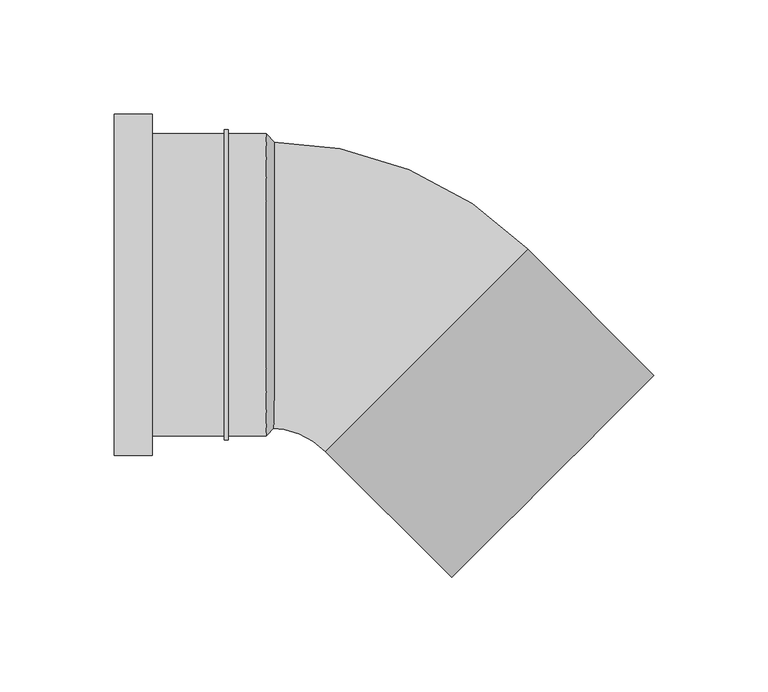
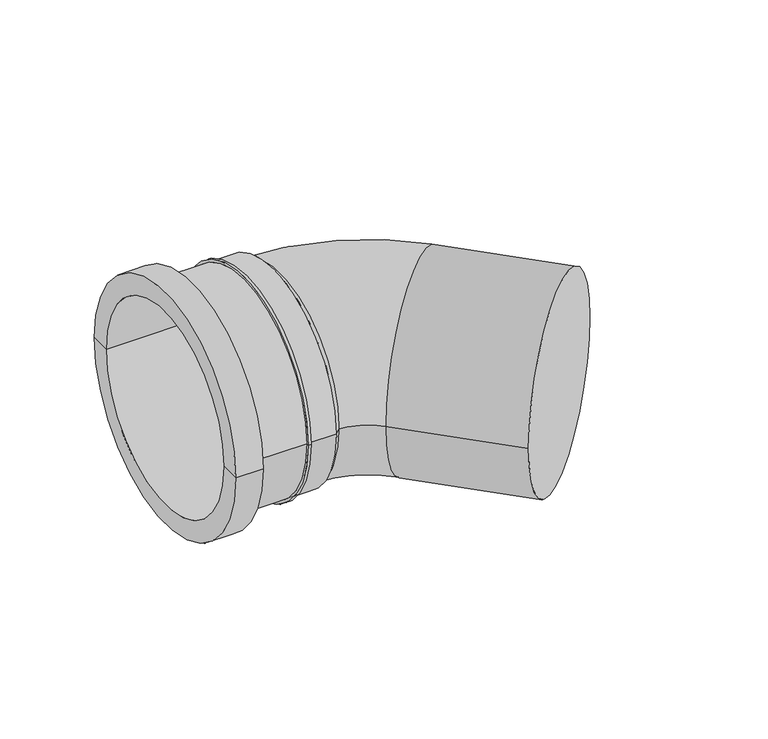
"""IFC4 building model written with IfcOpenShell, lengths in millimetres: pipe fitting geometry, UN_PIF_PP bend S-Sp_SH_PipeLife : Black, var. DN/OD (max. ø125, nested)."""

from ifc_helpers import new_model, si_unit, point, frame, origin, place, context, project, spatial, polyline, circle_curve, ellipse_curve, trimmed, source, transform, mapped, element, save
from ifc_brep_helpers import plane_surface, cylinder_surface, revolved_surface, advanced_brep


def pipe_fitting_6078bbb5(model_context):
    return source(origin(), model_context, "Body", "AdvancedBrep", [
        advanced_brep(
        [(-37.9, -62.5, 0.0), (-41.6, -66.2, 0.0), (-41.6, 66.2, 0.0), (-37.9, 62.5, 0.0), (-108.2, -74.9, 0.0), (-108.2, -62.5, 0.0), (-108.2, 62.5, 0.0), (-108.2, 74.9, 0.0), (-91.55, -74.9, 0.0), (-91.55, 74.9, 0.0), (-91.55, -66.2, 0.0), (-91.55, 66.2, 0.0), (-60.0, -66.2, 0.0), (-60.0, 66.2, 0.0), (-60.0, -67.95, 0.0), (-60.0, 67.95, 0.0), (-58.25, -67.95, 0.0), (-58.25, 67.95, 0.0), (-58.25, -66.2, 0.0), (-58.25, 66.2, 0.0)],
        [
            (0, 1),
            (1, 2, circle_curve(frame((-41.6, 0.0, 0.0), z_axis=(1.0, 0.0, 0.0), x_axis=(0.0, 1.0, 0.0)), 66.2)),
            (2, 3),
            (3, 0, circle_curve(frame((-37.9, 0.0, 0.0), z_axis=(-1.0, 0.0, 0.0), x_axis=(0.0, 1.0, 0.0)), 62.5)),
            (2, 1, circle_curve(frame((-41.6, 0.0, 0.0), z_axis=(1.0, 0.0, 0.0), x_axis=(0.0, 1.0, 0.0)), 66.2)),
            (0, 3, circle_curve(frame((-37.9, 0.0, 0.0), z_axis=(-1.0, 0.0, 0.0), x_axis=(0.0, 1.0, 0.0)), 62.5)),
            (4, 5),
            (5, 6, circle_curve(frame((-108.2, 0.0, 0.0), z_axis=(1.0, 0.0, 0.0), x_axis=(0.0, 1.0, 0.0)), 62.5)),
            (6, 7),
            (7, 4, circle_curve(frame((-108.2, 0.0, 0.0), z_axis=(-1.0, 0.0, 0.0), x_axis=(0.0, 1.0, 0.0)), 74.9)),
            (6, 5, circle_curve(frame((-108.2, 0.0, 0.0), z_axis=(1.0, 0.0, 0.0), x_axis=(0.0, 1.0, 0.0)), 62.5)),
            (4, 7, circle_curve(frame((-108.2, 0.0, 0.0), z_axis=(-1.0, 0.0, 0.0), x_axis=(0.0, 1.0, 0.0)), 74.9)),
            (8, 4),
            (7, 9),
            (9, 8, circle_curve(frame((-91.55, 0.0, 0.0), z_axis=(-1.0, 0.0, 0.0), x_axis=(0.0, 1.0, 0.0)), 74.9)),
            (8, 9, circle_curve(frame((-91.55, 0.0, 0.0), z_axis=(-1.0, 0.0, 0.0), x_axis=(0.0, 1.0, 0.0)), 74.9)),
            (10, 8),
            (9, 11),
            (11, 10, circle_curve(frame((-91.55, 0.0, 0.0), z_axis=(-1.0, 0.0, 0.0), x_axis=(0.0, 1.0, 0.0)), 66.2)),
            (10, 11, circle_curve(frame((-91.55, 0.0, 0.0), z_axis=(-1.0, 0.0, 0.0), x_axis=(0.0, 1.0, 0.0)), 66.2)),
            (12, 10),
            (11, 13),
            (13, 12, circle_curve(frame((-60.0, 0.0, 0.0), z_axis=(-1.0, 0.0, 0.0), x_axis=(0.0, 1.0, 0.0)), 66.2)),
            (12, 13, circle_curve(frame((-60.0, 0.0, 0.0), z_axis=(-1.0, 0.0, 0.0), x_axis=(0.0, 1.0, 0.0)), 66.2)),
            (14, 12),
            (13, 15),
            (15, 14, circle_curve(frame((-60.0, 0.0, 0.0), z_axis=(-1.0, 0.0, 0.0), x_axis=(0.0, 1.0, 0.0)), 67.95)),
            (14, 15, circle_curve(frame((-60.0, 0.0, 0.0), z_axis=(-1.0, 0.0, 0.0), x_axis=(0.0, 1.0, 0.0)), 67.95)),
            (16, 14),
            (15, 17),
            (17, 16, circle_curve(frame((-58.25, 0.0, 0.0), z_axis=(-1.0, 0.0, 0.0), x_axis=(0.0, 1.0, 0.0)), 67.95)),
            (16, 17, circle_curve(frame((-58.25, 0.0, 0.0), z_axis=(-1.0, 0.0, 0.0), x_axis=(0.0, 1.0, 0.0)), 67.95)),
            (18, 16),
            (17, 19),
            (19, 18, circle_curve(frame((-58.25, 0.0, 0.0), z_axis=(-1.0, 0.0, 0.0), x_axis=(0.0, 1.0, 0.0)), 66.2)),
            (18, 19, circle_curve(frame((-58.25, 0.0, 0.0), z_axis=(-1.0, 0.0, 0.0), x_axis=(0.0, 1.0, 0.0)), 66.2)),
            (1, 18),
            (19, 2),
            (5, 0),
            (3, 6),
        ],
        [
            revolved_surface(polyline([(-41.6, 66.2, 0.0), (-37.9, 62.5, 0.0)]), (-108.2, 0.0, 0.0), (1.0, 0.0, 0.0)),
            plane_surface(frame((-108.2, 0.0, 0.0), z_axis=(-1.0, 0.0, 0.0), x_axis=(0.0, 1.0, 0.0))),
            cylinder_surface(frame((-108.2, 0.0, 0.0), z_axis=(1.0, 0.0, 0.0), x_axis=(0.0, 1.0, 0.0)), 74.9),
            plane_surface(frame((-91.55, 0.0, 0.0), z_axis=(1.0, 0.0, 0.0), x_axis=(0.0, 1.0, 0.0))),
            cylinder_surface(frame((-108.2, 0.0, 0.0), z_axis=(1.0, 0.0, 0.0), x_axis=(0.0, 1.0, 0.0)), 66.2),
            plane_surface(frame((-60.0, 0.0, 0.0), z_axis=(-1.0, 0.0, 0.0), x_axis=(0.0, 1.0, 0.0))),
            cylinder_surface(frame((-108.2, 0.0, 0.0), z_axis=(1.0, 0.0, 0.0), x_axis=(0.0, 1.0, 0.0)), 67.95),
            plane_surface(frame((-58.25, 0.0, 0.0), z_axis=(1.0, 0.0, 0.0), x_axis=(0.0, 1.0, 0.0))),
            revolved_surface(polyline([(-37.89999999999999, 62.5, 0.0), (-108.2, 62.5, 0.0)]), (-108.2, 0.0, 0.0), (1.0, 0.0, 0.0)),
        ],
        [
            (0, [[1, 2, 3, 4]]),
            (0, [[-3, 5, -1, 6]]),
            (1, [[7, 8, 9, 10]]),
            (1, [[-9, 11, -7, 12]]),
            (2, [[13, -10, 14, 15]]),
            (2, [[-14, -12, -13, 16]]),
            (3, [[17, -15, 18, 19]]),
            (3, [[-18, -16, -17, 20]]),
            (4, [[21, -19, 22, 23]]),
            (4, [[-22, -20, -21, 24]]),
            (5, [[25, -23, 26, 27]]),
            (5, [[-26, -24, -25, 28]]),
            (6, [[29, -27, 30, 31]]),
            (6, [[-30, -28, -29, 32]]),
            (7, [[33, -31, 34, 35]]),
            (7, [[-34, -32, -33, 36]]),
            (4, [[37, -35, 38, -2]]),
            (4, [[-38, -36, -37, -5]]),
            (8, [[39, -4, 40, -8]]),
            (8, [[-40, -6, -39, -11]]),
        ],
    ),
        advanced_brep(
        [(-41.6, 62.7, 0.0), (-41.6, -62.7, 0.0), (-40.6, -62.7, 0.0), (-40.6, 62.7, 0.0), (-15.6270599, -73.0441305, 0.0), (73.0441305, 15.6270599, 0.0), (128.4105915, -39.7394011, 0.0), (39.7394011, -128.4105915, 0.0)],
        [
            (0, 1, circle_curve(frame((-41.6, 0.0, 0.0), z_axis=(-1.0, 0.0, 0.0), x_axis=(0.0, -1.0, 0.0)), 62.7)),
            (1, 0, circle_curve(frame((-41.6, 0.0, 0.0), z_axis=(-1.0, 0.0, 0.0), x_axis=(0.0, -1.0, 0.0)), 62.7)),
            (1, 2),
            (2, 3, circle_curve(frame((-40.6, 0.0, 0.0), z_axis=(-1.0, 0.0, 0.0), x_axis=(0.0, -1.0, 0.0)), 62.7)),
            (3, 0),
            (3, 2, circle_curve(frame((-40.6, 0.0, 0.0), z_axis=(-1.0, 0.0, 0.0), x_axis=(0.0, -1.0, 0.0)), 62.7)),
            (4, 5, circle_curve(frame((28.7085353, -28.7085353, 0.0), z_axis=(-0.7071067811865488, 0.7071067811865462, 0.0), x_axis=(-0.7071067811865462, -0.7071067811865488, 0.0)), 62.7)),
            (5, 3, circle_curve(frame((-40.6, -98.0170706, 0.0), z_axis=(0.0, 0.0, 1.0), x_axis=(0.0, 1.0, 0.0)), 160.7170706)),
            (2, 4, circle_curve(frame((-40.6, -98.0170706, 0.0), z_axis=(0.0, 0.0, -1.0), x_axis=(0.0, 1.0, 0.0)), 35.3170706)),
            (5, 4, circle_curve(frame((28.7085353, -28.7085353, 0.0), z_axis=(-0.707106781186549, 0.707106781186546, 0.0), x_axis=(-0.707106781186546, -0.707106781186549, 0.0)), 62.7)),
            (6, 7, circle_curve(frame((84.0749963, -84.0749963, 0.0), z_axis=(0.707106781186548, -0.7071067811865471, 0.0), x_axis=(-0.7071067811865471, -0.707106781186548, 0.0)), 62.7)),
            (7, 6, circle_curve(frame((84.0749963, -84.0749963, 0.0), z_axis=(0.707106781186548, -0.7071067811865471, 0.0), x_axis=(-0.7071067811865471, -0.707106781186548, 0.0)), 62.7)),
            (4, 7),
            (6, 5),
        ],
        [
            plane_surface(frame((-41.6, 0.0, 0.0), z_axis=(-1.0, 0.0, 0.0), x_axis=(0.0, 0.0, 1.0))),
            cylinder_surface(frame((-41.6, 0.0, 0.0), z_axis=(-1.0, 0.0, 0.0), x_axis=(0.0, -1.0, 0.0)), 62.7),
            revolved_surface(trimmed(ellipse_curve(frame((-40.6, 0.0, 0.0), z_axis=(1.0, 0.0, 0.0), x_axis=(0.0, -1.0, 0.0)), 62.7, 62.7), [point((-40.6, 62.7, 0.0))], [point((-40.6, -62.7, 0.0))], True, "CARTESIAN"), (-40.6, -98.0170706, 0.0), (0.0, 0.0, 1.0)),
            revolved_surface(trimmed(ellipse_curve(frame((-40.6, 0.0, 0.0), z_axis=(1.0, 0.0, 0.0), x_axis=(0.0, -1.0, 0.0)), 62.7, 62.7), [point((-40.6, -62.7, 0.0))], [point((-40.6, 62.7, 0.0))], True, "CARTESIAN"), (-40.6, -98.0170706, 0.0), (0.0, 0.0, 1.0)),
            plane_surface(frame((84.0749963, -84.0749963, 0.0), z_axis=(0.707106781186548, -0.7071067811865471, 0.0), x_axis=(0.0, 0.0, 1.0))),
            cylinder_surface(frame((28.7085353, -28.7085353, 0.0), z_axis=(-0.707106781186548, 0.7071067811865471, 0.0), x_axis=(-0.7071067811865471, -0.707106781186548, 0.0)), 62.7),
        ],
        [
            (0, [[1, 2]]),
            (1, [[3, 4, 5, -2]]),
            (1, [[-5, 6, -3, -1]]),
            (2, [[7, 8, -4, 9]]),
            (3, [[10, -9, -6, -8]]),
            (4, [[11, 12]]),
            (5, [[13, -11, 14, -7]]),
            (5, [[-14, -12, -13, -10]]),
        ],
    ),
    ])


if __name__ == "__main__":
    model = new_model("IFC4")
    model_context = context("Model", 3, world=origin())
    ifc_project = project(units=[si_unit("LENGTHUNIT", "METRE", prefix="MILLI")], contexts=[model_context])
    site = spatial("IfcSite", under=ifc_project)
    building = spatial("IfcBuilding", under=site)
    placement = place(None, origin())
    pipe_fitting_shape = pipe_fitting_6078bbb5(model_context)
    element("IfcPipeFitting", 1, ObjectType="UN_PIF_PP bend S-Sp_SH_PipeLife : Black, var. DN/OD (max. ø125, nested)", at=placement, inside=building, context=model_context, shape_type="MappedRepresentation", body=[
        mapped(pipe_fitting_shape, transform((0.0, 0.0, 0.0), x_axis=(1.0, 0.0, 0.0), y_axis=(0.0, 1.0, 0.0), z_axis=(0.0, 0.0, 1.0))),
    ])
    save(model, "model.ifc")
